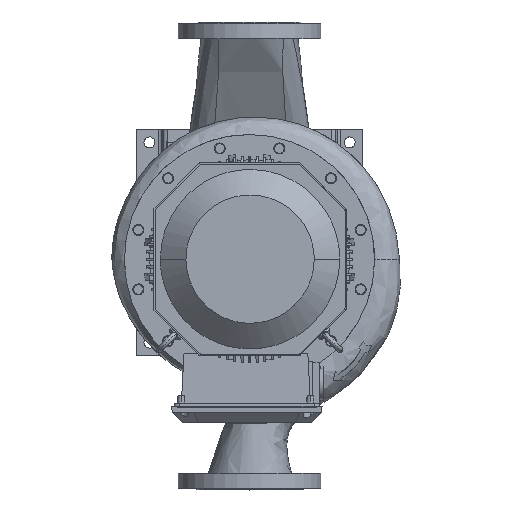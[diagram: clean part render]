
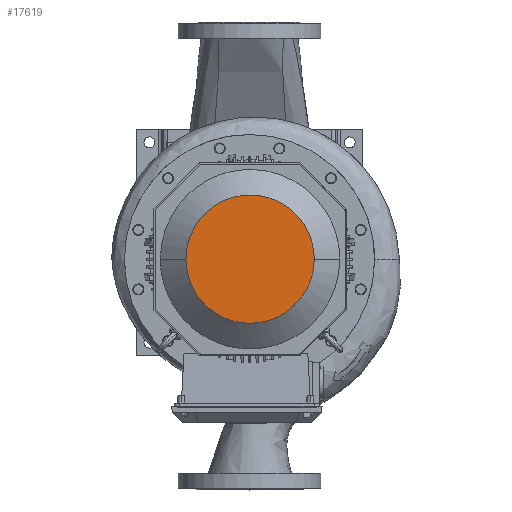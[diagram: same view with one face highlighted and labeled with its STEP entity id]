
A CAD part, top view. The second image highlights one B-rep face of the part: STEP entity #17619.
In plain terms, the highlighted free-form (B-spline) face has degree [1, 1] with [2, 2] control points.
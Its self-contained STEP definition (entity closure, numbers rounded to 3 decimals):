
#17619=ADVANCED_FACE('     F36',(#34152),#34153,.T.);
#17701=EDGE_CURVE('     E99',#34278,#34279,#34280,.T.);
#17705=EDGE_CURVE('     E99',#34279,#34278,#34284,.T.);
#34152=FACE_OUTER_BOUND('',#83207,.T.);
#34153=B_SPLINE_SURFACE_WITH_KNOTS('',1,1,((#83208,#83209),(#83210,#83211)),.UNSPECIFIED.,.F.,.F.,.F.,(2,2),(2,2),(0.044,0.955),(0.039,0.96),.UNSPECIFIED.);
#34278=VERTEX_POINT('',#83652);
#34279=VERTEX_POINT('',#83653);
#34280=(B_SPLINE_CURVE(2,(#83655,#83656,#83657,#83658,#83659),.UNSPECIFIED.,.F.,.F.)B_SPLINE_CURVE_WITH_KNOTS((3,2,3),(64.683,86.244,129.365),.UNSPECIFIED.)RATIONAL_B_SPLINE_CURVE((0.75,0.75,1.0,0.5,1.0))BOUNDED_CURVE()REPRESENTATION_ITEM('')GEOMETRIC_REPRESENTATION_ITEM()CURVE());
#34284=(B_SPLINE_CURVE(2,(#83673,#83674,#83675,#83676,#83677),.UNSPECIFIED.,.F.,.F.)B_SPLINE_CURVE_WITH_KNOTS((3,2,3),(0.0,43.122,64.683),.UNSPECIFIED.)RATIONAL_B_SPLINE_CURVE((1.0,0.5,1.0,0.75,0.75))BOUNDED_CURVE()REPRESENTATION_ITEM('')GEOMETRIC_REPRESENTATION_ITEM()CURVE());
#83207=EDGE_LOOP('',(#98548,#98549));
#83208=CARTESIAN_POINT('',(-269.045,153.272,-215.6));
#83209=CARTESIAN_POINT('',(-269.045,-103.789,-215.6));
#83210=CARTESIAN_POINT('',(-12.172,153.272,-215.6));
#83211=CARTESIAN_POINT('',(-12.172,-103.789,-215.6));
#83652=CARTESIAN_POINT('',(-268.613,24.546,-215.6));
#83653=CARTESIAN_POINT('',(-12.181,24.546,-215.6));
#83655=CARTESIAN_POINT('',(-268.613,24.546,-215.6));
#83656=CARTESIAN_POINT('',(-268.613,-49.479,-215.6));
#83657=CARTESIAN_POINT('',(-204.505,-86.492,-215.6));
#83658=CARTESIAN_POINT('',(-12.181,-197.531,-215.6));
#83659=CARTESIAN_POINT('',(-12.181,24.546,-215.6));
#83673=CARTESIAN_POINT('',(-12.181,24.546,-215.6));
#83674=CARTESIAN_POINT('',(-12.181,246.623,-215.6));
#83675=CARTESIAN_POINT('',(-204.505,135.585,-215.6));
#83676=CARTESIAN_POINT('',(-268.613,98.572,-215.6));
#83677=CARTESIAN_POINT('',(-268.613,24.546,-215.6));
#98548=ORIENTED_EDGE('',*,*,#17705,.F.);
#98549=ORIENTED_EDGE('',*,*,#17701,.F.);
